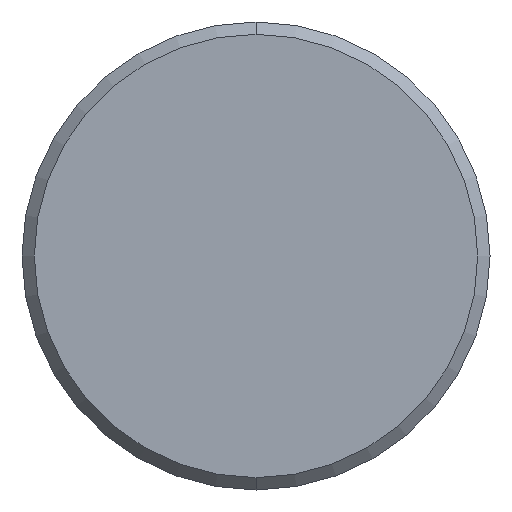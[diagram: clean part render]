
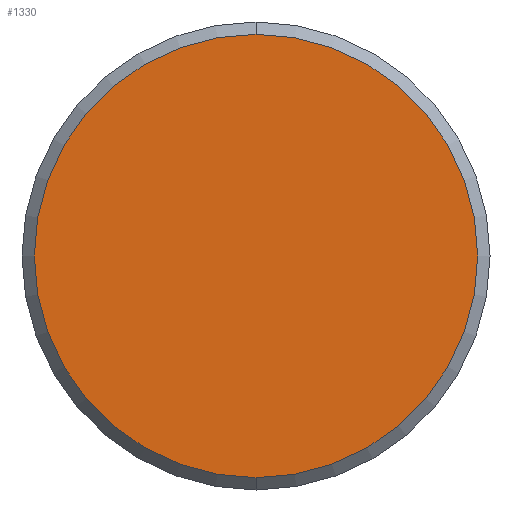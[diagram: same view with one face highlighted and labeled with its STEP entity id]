
A CAD part, front view. The second image highlights one B-rep face of the part: STEP entity #1330.
In plain terms, the highlighted planar face has unit normal (0, -1, 0).
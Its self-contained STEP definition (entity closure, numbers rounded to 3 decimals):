
#65 = CIRCLE ( 'NONE', #1158, 18. ) ;
#70 = EDGE_CURVE ( 'NONE', #1185, #671, #65, .T. ) ;
#132 = AXIS2_PLACEMENT_3D ( 'NONE', #1119, #1348, #305 ) ;
#239 = CARTESIAN_POINT ( 'NONE',  ( 0., 0., -18. ) ) ;
#255 = EDGE_CURVE ( 'NONE', #671, #1185, #694, .T. ) ;
#257 = CARTESIAN_POINT ( 'NONE',  ( 0., 0., 18. ) ) ;
#260 = CARTESIAN_POINT ( 'NONE',  ( 0., 0., 0. ) ) ;
#305 = DIRECTION ( 'NONE',  ( 0., 0., 1. ) ) ;
#324 = AXIS2_PLACEMENT_3D ( 'NONE', #260, #1322, #503 ) ;
#378 = PLANE ( 'NONE',  #132 ) ;
#386 = ORIENTED_EDGE ( 'NONE', *, *, #255, .F. ) ;
#432 = FACE_OUTER_BOUND ( 'NONE', #1273, .T. ) ;
#503 = DIRECTION ( 'NONE',  ( 0., 0., 1. ) ) ;
#671 = VERTEX_POINT ( 'NONE', #239 ) ;
#694 = CIRCLE ( 'NONE', #324, 18. ) ;
#1062 = DIRECTION ( 'NONE',  ( 0., 0., 1. ) ) ;
#1119 = CARTESIAN_POINT ( 'NONE',  ( 0., 0., 0. ) ) ;
#1158 = AXIS2_PLACEMENT_3D ( 'NONE', #1206, #1338, #1062 ) ;
#1185 = VERTEX_POINT ( 'NONE', #257 ) ;
#1206 = CARTESIAN_POINT ( 'NONE',  ( 0., 0., 0. ) ) ;
#1273 = EDGE_LOOP ( 'NONE', ( #386, #1409 ) ) ;
#1322 = DIRECTION ( 'NONE',  ( 0., 1., 0. ) ) ;
#1330 = ADVANCED_FACE ( 'NONE', ( #432 ), #378, .F. ) ;
#1338 = DIRECTION ( 'NONE',  ( 0., 1., 0. ) ) ;
#1348 = DIRECTION ( 'NONE',  ( 0., 1., 0. ) ) ;
#1409 = ORIENTED_EDGE ( 'NONE', *, *, #70, .F. ) ;
